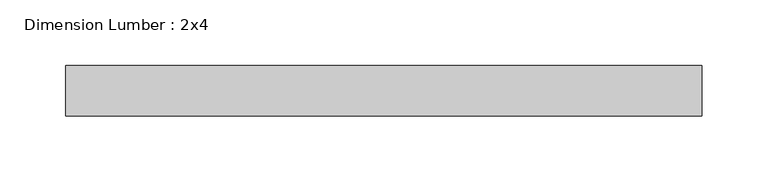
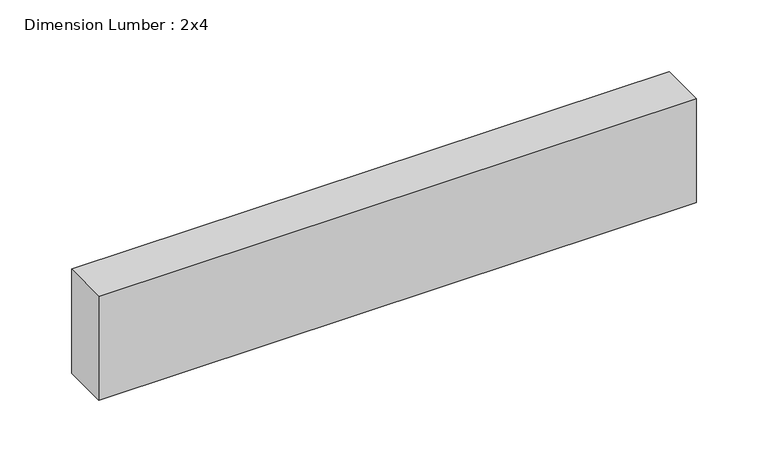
"""IFC4 building model written with IfcOpenShell, lengths in millimetres: beam geometry, Dimension Lumber : 2x4."""

from ifc_helpers import new_model, si_unit, frame, origin, place, context, project, spatial, polyline, outline, extrude, source, transform, mapped, element, save


def dimension_lumber_2x4_e224935b(model_context):
    return source(origin(), model_context, "Body", "SweptSolid", [
        extrude(outline(polyline([(255.3468839, 19.05), (255.3468839, -19.05), (-226.7588757, -19.05), (-226.7588757, 19.05), (255.3468839, 19.05)])), frame((0.0, 0.0, -44.45), z_axis=(0.0, 0.0, 1.0), x_axis=(1.0, 0.0, 0.0)), (0.0, 0.0, 1.0), 88.9),
    ])


if __name__ == "__main__":
    model = new_model("IFC4")
    model_context = context("Model", 3, world=origin())
    ifc_project = project(units=[si_unit("LENGTHUNIT", "METRE", prefix="MILLI")], contexts=[model_context])
    site = spatial("IfcSite", under=ifc_project)
    building = spatial("IfcBuilding", under=site)
    placement = place(None, origin())
    dimension_lumber_2x4_shape = dimension_lumber_2x4_e224935b(model_context)
    element("IfcBeam", 1, ObjectType="Dimension Lumber : 2x4", at=placement, inside=building, context=model_context, shape_type="MappedRepresentation", body=[
        mapped(dimension_lumber_2x4_shape, transform((0.0, 0.0, 0.0), x_axis=(1.0, 0.0, 0.0), y_axis=(0.0, 1.0, 0.0), z_axis=(0.0, 0.0, 1.0))),
    ])
    save(model, "model.ifc")
